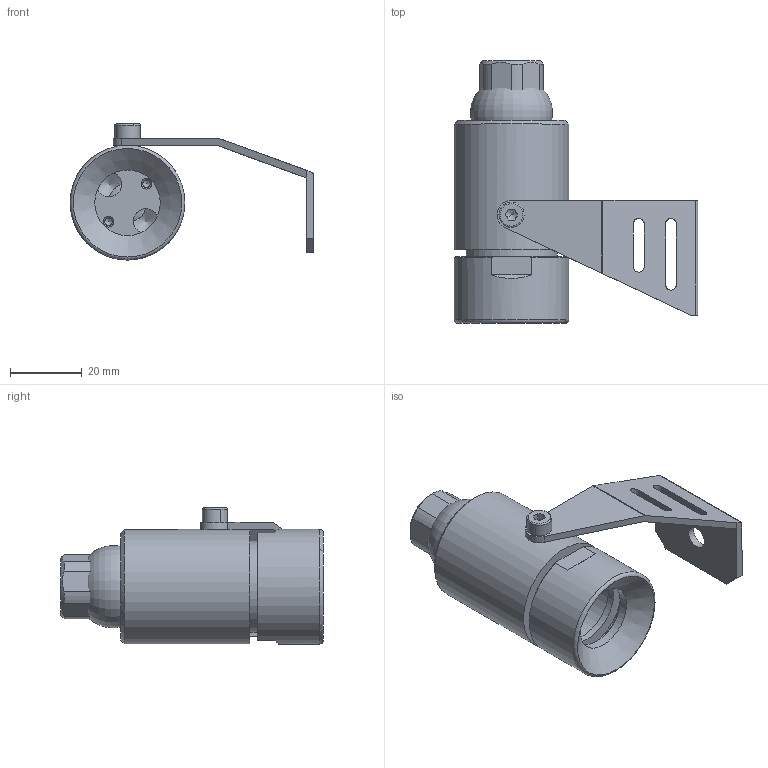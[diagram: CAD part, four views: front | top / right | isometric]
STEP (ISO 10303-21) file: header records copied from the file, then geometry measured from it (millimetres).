
FILE_DESCRIPTION(/* description */ ('Alibre Inc.'),/* implementation_level */ '2;1');
FILE_NAME(/* name */ 'export-A3F1E9B6-14BE-4CA2-B94F-DA8EC69415A4',/* time_stamp */ '2025-04-08T18:20:28+02:00',/* author */ (''),/* organization */ (''),/* preprocessor_version */ 'ST-DEVELOPER v17',/* originating_system */ 'Alibre',/* authorisation */ '');
FILE_SCHEMA (('CONFIG_CONTROL_DESIGN'));
Length unit declared in the file: millimetre
Bounding box: 68 x 73.3 x 38 mm (x, y, z)
Volume: 38724.7 mm3; surface area: 23851.3 mm2
Topology: 9 solids, 9 shells, 149 faces, 355 edges, 227 vertices
Faces by surface type: plane 58, cylinder 49, cone 35, torus 7
Full cylindrical faces by diameter (mm): 2.05 x2, 4 x2, 4.1 x1, 6.1 x1, 7 x2, 8.5 x1, 8.7 x1, 10.75 x2, 10.9 x1, 12 x3, 13 x1, 14 x1, 16.4 x1, 17.4 x1, 18.3 x1, 20 x1, 22.3 x1, 25.5 x1, 26 x1, 26.5 x2, 27.5 x1, 28 x1, 28.3 x1, 32 x2
Entity records: 5079 total; most frequent: CARTESIAN_POINT 942, DIRECTION 597, ORIENTED_EDGE 544, AXIS2_PLACEMENT_3D 279, EDGE_CURVE 272, FACE_BOUND 247, EDGE_LOOP 239, VERTEX_POINT 219
